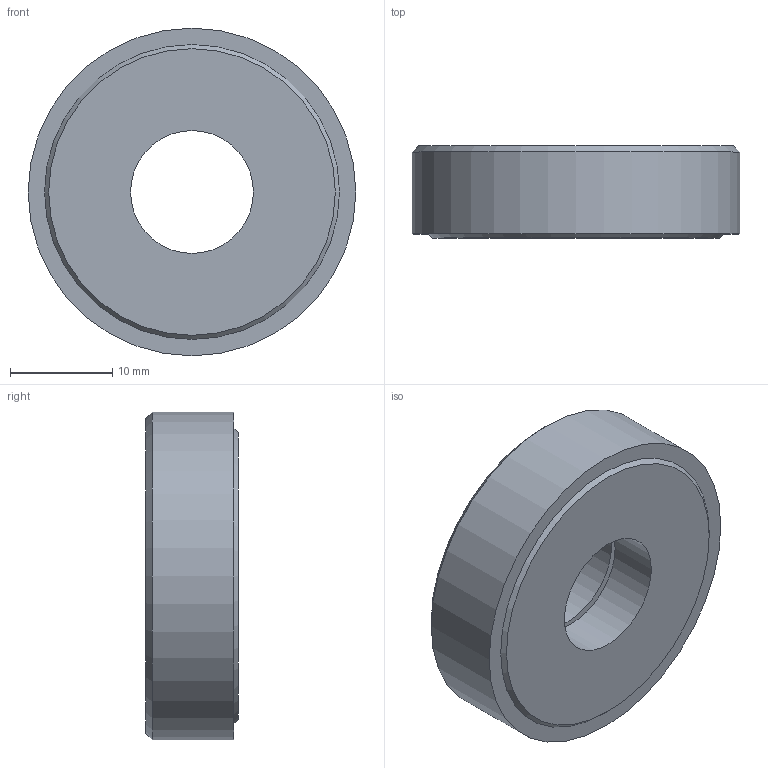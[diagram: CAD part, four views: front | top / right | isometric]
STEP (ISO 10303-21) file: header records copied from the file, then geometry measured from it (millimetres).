
FILE_DESCRIPTION( ( 'STEP AP203' ), '1' );
FILE_NAME( 'C:/Temp/Ganter_Step_05_03_2020/data/3_2/gn_6342/gn_6342_ni/Stainless Steel Washer with axial friction bearing GN 6342-NI-32-12.stp', '2020-03-13T05:36:55', ( 'License CC BY-ND 4.0' ), ( 'CADENAS' ), ' ', 'PARTsolutions', ' ' );
FILE_SCHEMA( ( 'CONFIG_CONTROL_DESIGN' ) );
Length unit declared in the file: millimetre
Products named in the file (1): _Stainless Steel Washer with axial friction bearing GN 6342-NI-32-12
Bounding box: 32 x 9 x 32 mm (x, y, z)
Volume: 6090.2 mm3; surface area: 2747.4 mm2
Topology: 1 solids, 1 shells, 11 faces, 17 edges, 11 vertices
Faces by surface type: plane 5, cylinder 4, cone 2
Full cylindrical faces by diameter (mm): 12 x2, 16 x1, 32 x1
Entity records: 272 total; most frequent: DIRECTION 46, CARTESIAN_POINT 34, AXIS2_PLACEMENT_3D 23, EDGE_LOOP 22, ORIENTED_EDGE 22, FACE_OUTER_BOUND 15, ADVANCED_FACE 11, EDGE_CURVE 11
